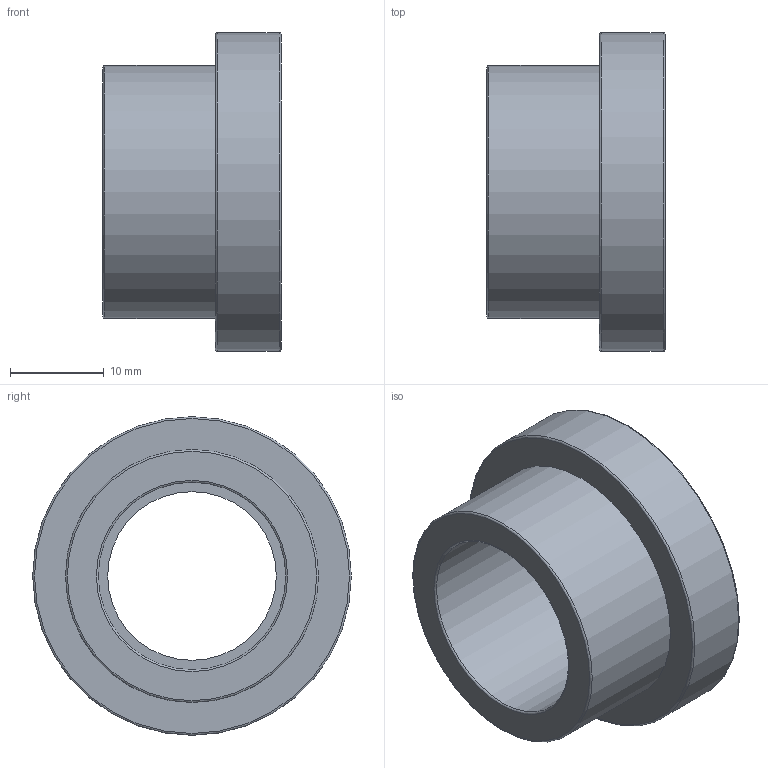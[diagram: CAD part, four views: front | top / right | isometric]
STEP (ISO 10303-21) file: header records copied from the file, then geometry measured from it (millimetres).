
FILE_DESCRIPTION(/* description */ ('PLASSON FLANGE FLAT AD.-CEM 20'),/* implementation_level */ '2;1');
FILE_NAME(/* name */ 'C:\Dropbox\KIMPROJECTS-Inventor\99-16-3568-Processing\PVC Catalog 2017\26_09_18\055100\055100020.ipt.stp',/* time_stamp */ '2018-09-27T11:50:38+03:00',/* author */ ('KIM'),/* organization */ (''),/* preprocessor_version */ 'ST-DEVELOPER v15.6',/* originating_system */ 'Autodesk Inventor 2015',/* authorisation */ '');
FILE_SCHEMA (('AUTOMOTIVE_DESIGN { 1 0 10303 214 3 1 1 }'));
Length unit declared in the file: millimetre
Products named in the file (1): 055100020
Bounding box: 19 x 34 x 34 mm (x, y, z)
Volume: 7432.6 mm3; surface area: 4211.5 mm2
Topology: 1 solids, 1 shells, 13 faces, 22 edges, 13 vertices
Faces by surface type: torus 5, cylinder 4, plane 4
Full cylindrical faces by diameter (mm): 18 x1, 20 x1, 27 x1, 34 x1
Entity records: 292 total; most frequent: DIRECTION 54, CARTESIAN_POINT 40, AXIS2_PLACEMENT_3D 27, EDGE_LOOP 26, ORIENTED_EDGE 26, FACE_BOUND 13, FACE_OUTER_BOUND 13, CIRCLE 13
